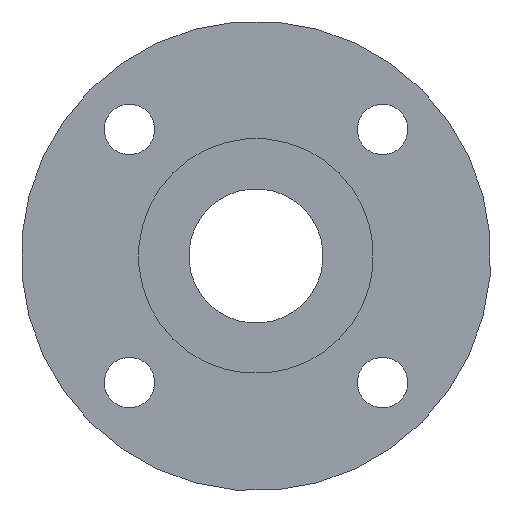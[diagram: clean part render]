
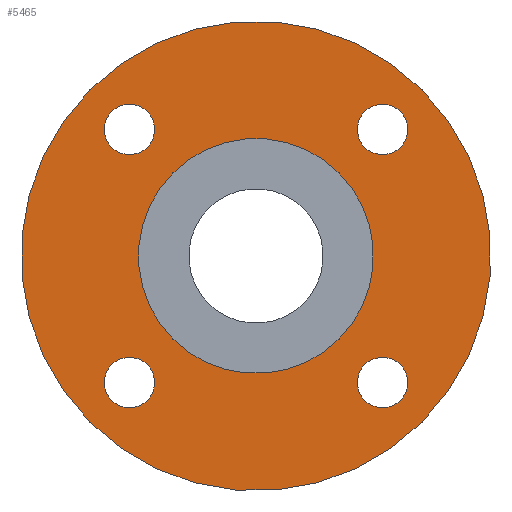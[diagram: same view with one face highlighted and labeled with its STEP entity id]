
A CAD part, left-side view. The second image highlights one B-rep face of the part: STEP entity #5465.
In plain terms, the highlighted planar face has unit normal (-1, 0, 0).
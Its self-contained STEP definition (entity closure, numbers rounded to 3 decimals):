
#110=CIRCLE('',#5812,10.5);
#112=CIRCLE('',#5817,21.);
#113=CIRCLE('',#5819,2.25);
#114=CIRCLE('',#5820,2.25);
#115=CIRCLE('',#5821,2.25);
#116=CIRCLE('',#5822,2.25);
#1673=ORIENTED_EDGE('',*,*,#3247,.T.);
#1674=ORIENTED_EDGE('',*,*,#3248,.T.);
#1675=ORIENTED_EDGE('',*,*,#3249,.T.);
#1676=ORIENTED_EDGE('',*,*,#3250,.T.);
#1677=ORIENTED_EDGE('',*,*,#3244,.F.);
#1678=ORIENTED_EDGE('',*,*,#3246,.F.);
#3244=EDGE_CURVE('',#4033,#4033,#110,.F.);
#3246=EDGE_CURVE('',#4035,#4035,#112,.T.);
#3247=EDGE_CURVE('',#4036,#4036,#113,.T.);
#3248=EDGE_CURVE('',#4037,#4037,#114,.T.);
#3249=EDGE_CURVE('',#4038,#4038,#115,.T.);
#3250=EDGE_CURVE('',#4039,#4039,#116,.T.);
#4033=VERTEX_POINT('',#8666);
#4035=VERTEX_POINT('',#8673);
#4036=VERTEX_POINT('',#8676);
#4037=VERTEX_POINT('',#8678);
#4038=VERTEX_POINT('',#8680);
#4039=VERTEX_POINT('',#8682);
#4486=EDGE_LOOP('',(#1673));
#4487=EDGE_LOOP('',(#1674));
#4488=EDGE_LOOP('',(#1675));
#4489=EDGE_LOOP('',(#1676));
#4490=EDGE_LOOP('',(#1677));
#4491=EDGE_LOOP('',(#1678));
#4877=FACE_BOUND('',#4486,.T.);
#4878=FACE_BOUND('',#4487,.T.);
#4879=FACE_BOUND('',#4488,.T.);
#4880=FACE_BOUND('',#4489,.T.);
#4881=FACE_BOUND('',#4490,.T.);
#4882=FACE_BOUND('',#4491,.T.);
#5215=PLANE('',#5818);
#5465=ADVANCED_FACE('',(#4877,#4878,#4879,#4880,#4881,#4882),#5215,.F.);
#5812=AXIS2_PLACEMENT_3D('',#8665,#6317,#6318);
#5817=AXIS2_PLACEMENT_3D('',#8672,#6327,#6328);
#5818=AXIS2_PLACEMENT_3D('',#8674,#6329,#6330);
#5819=AXIS2_PLACEMENT_3D('',#8675,#6331,#6332);
#5820=AXIS2_PLACEMENT_3D('',#8677,#6333,#6334);
#5821=AXIS2_PLACEMENT_3D('',#8679,#6335,#6336);
#5822=AXIS2_PLACEMENT_3D('',#8681,#6337,#6338);
#6317=DIRECTION('',(1.,0.,0.));
#6318=DIRECTION('',(0.,0.707,-0.707));
#6327=DIRECTION('',(1.,0.,0.));
#6328=DIRECTION('',(0.,0.707,-0.707));
#6329=DIRECTION('',(1.,0.,0.));
#6330=DIRECTION('',(0.,0.707,-0.707));
#6331=DIRECTION('',(1.,0.,0.));
#6332=DIRECTION('',(0.,0.707,-0.707));
#6333=DIRECTION('',(1.,0.,0.));
#6334=DIRECTION('',(0.,0.707,-0.707));
#6335=DIRECTION('',(1.,0.,0.));
#6336=DIRECTION('',(0.,0.707,-0.707));
#6337=DIRECTION('',(1.,0.,0.));
#6338=DIRECTION('',(0.,0.707,-0.707));
#8665=CARTESIAN_POINT('',(9.,0.,0.));
#8666=CARTESIAN_POINT('',(9.,7.425,-7.425));
#8672=CARTESIAN_POINT('',(9.,0.,0.));
#8673=CARTESIAN_POINT('',(9.,14.849,-14.849));
#8674=CARTESIAN_POINT('',(9.,0.,0.));
#8675=CARTESIAN_POINT('',(9.,11.314,-11.314));
#8676=CARTESIAN_POINT('',(9.,12.905,-12.905));
#8677=CARTESIAN_POINT('',(9.,-11.314,-11.314));
#8678=CARTESIAN_POINT('',(9.,-9.723,-12.905));
#8679=CARTESIAN_POINT('',(9.,-11.314,11.314));
#8680=CARTESIAN_POINT('',(9.,-9.723,9.723));
#8681=CARTESIAN_POINT('',(9.,11.314,11.314));
#8682=CARTESIAN_POINT('',(9.,12.905,9.723));
